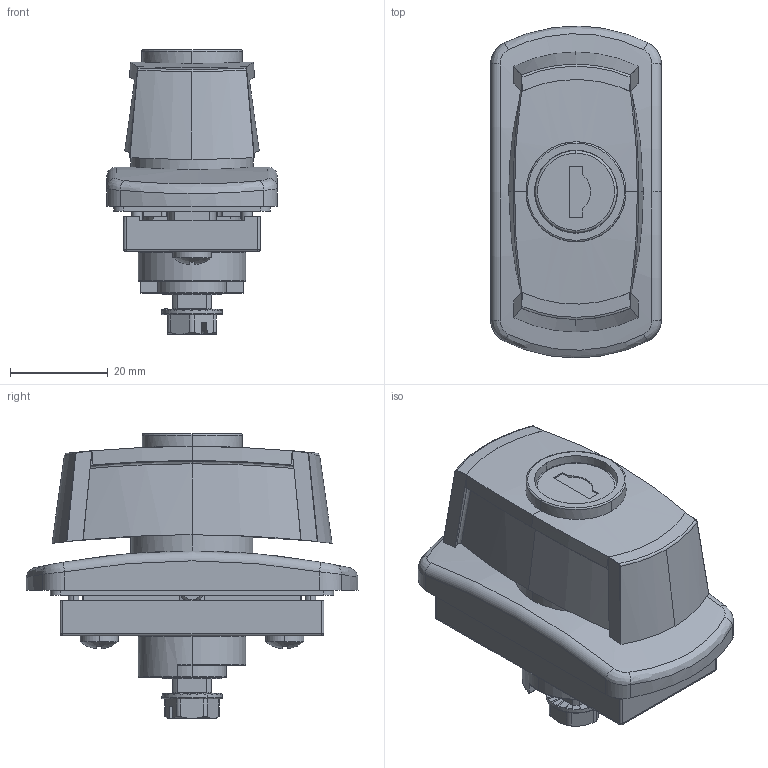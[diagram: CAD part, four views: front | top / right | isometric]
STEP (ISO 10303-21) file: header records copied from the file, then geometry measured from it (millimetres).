
FILE_DESCRIPTION (( 'STEP AP214' ), '1' );
FILE_NAME ('RW200-N.STEP', '2016-09-07T13:00:48', ( '' ), ( '' ), 'SwSTEP 2.0', 'SolidWorks 2015', '' );
FILE_SCHEMA (( 'AUTOMOTIVE_DESIGN' ));
Length unit declared in the file: millimetre
Products named in the file (16): 2.PM18.001.03_A; DIN 915_M3 x 5; 1.RW200IP.001_A; 1B.RW200.02.02.00_A; 1C.902.001_A; 1B.RW200.01_A; 2.B.002_R.1333; 1B.RW200.00.03_A; RW200-N; Wkrêt 4,2 x 13_A; 1C.901.005_L.11; Podk³adka teflonowa; 1B.RW200.00.01_A; 1B.RW200.00.02_A; O-ring 14x1,78_A; DIN 6921_M6x14
Assembly tree (16 placements, depth 3):
  RW200-N
    1B.RW200.01_A
      1B.RW200.00.01_A
      1B.RW200.02.02.00_A
    1B.RW200.00.02_A
    1B.RW200.00.03_A
    1.RW200IP.001_A
    2.PM18.001.03_A
    2.B.002_R.1333
    O-ring 14x1,78_A
    DIN 915_M3 x 5
    Podk³adka teflonowa
    DIN 6921_M6x14
    Wkrêt 4,2 x 13_A  x2
    1C.901.005_L.11
    1C.902.001_A
Bounding box: 35 x 68 x 58.3 mm (x, y, z)
Volume: 50141.9 mm3; surface area: 34676.7 mm2
Topology: 15 solids, 15 shells, 803 faces, 2090 edges, 1323 vertices
Faces by surface type: plane 395, cylinder 280, bspline 73, cone 33, torus 18, sphere 4
Entity records: 31200 total; most frequent: CARTESIAN_POINT 13223, ORIENTED_EDGE 3848, DIRECTION 3349, EDGE_CURVE 1924, VERTEX_POINT 1229, AXIS2_PLACEMENT_3D 1203, LINE 943, VECTOR 943
